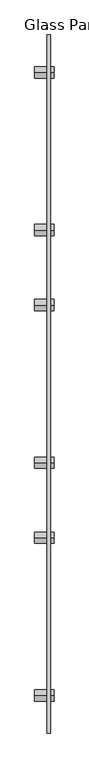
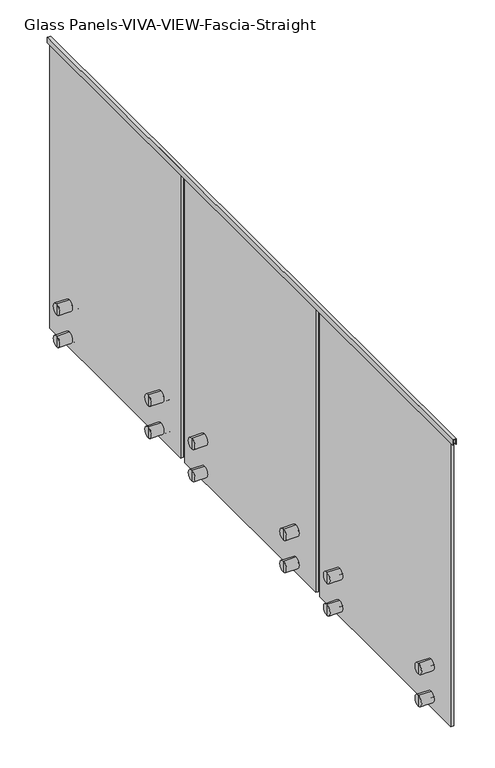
"""IFC4 building model written with IfcOpenShell, lengths in millimetres: railing geometry, Glass Panels-VIVA-VIEW-Fascia-Straight."""

from ifc_helpers import new_model, si_unit, frame, origin, place, context, project, spatial, polyline, circle_curve, outline, extrude, source, transform, mapped, element, save
from ifc_brep_helpers import plane_surface, cylinder_surface, advanced_brep


def glass_panels_viva_view_fascia_straight_26263650(model_context):
    return source(origin(), model_context, "Body", "SolidModel", [
        extrude(outline(polyline([(4140.2, 25111.3483583), (4114.8, 25111.3483583), (4114.8, 25112.9358583), (4138.6125, 25112.9358583), (4138.6125, 25125.6358583), (4114.8, 25125.6358583), (4114.8, 25127.2233583), (4140.2, 25127.2233583), (4140.2, 25111.3483583)])), frame((0.0, -2588.6148227, 0.0), z_axis=(0.0, 1.0, 0.0), x_axis=(0.0, 0.0, 1.0)), (0.0, 0.0, 1.0), 3149.6),
        advanced_brep(
        [(25143.0980644, -319.1651094, 2794.0), (25143.0980644, -319.1651094, 2844.8), (25143.0980644, -319.1651094, 2819.4), (25125.6355644, -319.1651094, 2794.0), (25125.6355644, -319.1651094, 2844.8), (25125.6355644, -319.1651094, 2813.685), (25125.6355644, -319.1651094, 2825.115), (25112.9355644, -319.1651094, 2813.685), (25112.9355644, -319.1651094, 2825.115), (25112.9355644, -319.1651094, 2794.0), (25112.9355644, -319.1651094, 2844.8), (25055.7857113, -319.1651094, 2794.0), (25055.7857113, -319.1651094, 2844.8), (25055.7857113, -319.1651094, 2819.4)],
        [
            (0, 1, circle_curve(frame((25143.0980644, -319.1651094, 2819.4), z_axis=(1.0, 0.0, 0.0), x_axis=(0.0, 0.0, 1.0)), 25.4)),
            (1, 2),
            (2, 0),
            (1, 0, circle_curve(frame((25143.0980644, -319.1651094, 2819.4), z_axis=(1.0, 0.0, 0.0), x_axis=(0.0, 0.0, 1.0)), 25.4)),
            (3, 4, circle_curve(frame((25125.6355644, -319.1651094, 2819.4), z_axis=(1.0, 0.0, 0.0), x_axis=(0.0, 0.0, 1.0)), 25.4)),
            (4, 1),
            (0, 3),
            (4, 3, circle_curve(frame((25125.6355644, -319.1651094, 2819.4), z_axis=(1.0, 0.0, 0.0), x_axis=(0.0, 0.0, 1.0)), 25.4)),
            (5, 6, circle_curve(frame((25125.6355644, -319.1651094, 2819.4), z_axis=(1.0, 0.0, 0.0), x_axis=(0.0, 0.0, 1.0)), 5.715)),
            (6, 4),
            (3, 5),
            (6, 5, circle_curve(frame((25125.6355644, -319.1651094, 2819.4), z_axis=(1.0, 0.0, 0.0), x_axis=(0.0, 0.0, 1.0)), 5.715)),
            (7, 8, circle_curve(frame((25112.9355644, -319.1651094, 2819.4), z_axis=(1.0, 0.0, 0.0), x_axis=(0.0, 0.0, 1.0)), 5.715)),
            (8, 6),
            (5, 7),
            (8, 7, circle_curve(frame((25112.9355644, -319.1651094, 2819.4), z_axis=(1.0, 0.0, 0.0), x_axis=(0.0, 0.0, 1.0)), 5.715)),
            (9, 10, circle_curve(frame((25112.9355644, -319.1651094, 2819.4), z_axis=(1.0, 0.0, 0.0), x_axis=(0.0, 0.0, 1.0)), 25.4)),
            (10, 8),
            (7, 9),
            (10, 9, circle_curve(frame((25112.9355644, -319.1651094, 2819.4), z_axis=(1.0, 0.0, 0.0), x_axis=(0.0, 0.0, 1.0)), 25.4)),
            (11, 12, circle_curve(frame((25055.7857113, -319.1651094, 2819.4), z_axis=(1.0, 0.0, 0.0), x_axis=(0.0, 0.0, 1.0)), 25.4)),
            (12, 10),
            (9, 11),
            (12, 11, circle_curve(frame((25055.7857113, -319.1651094, 2819.4), z_axis=(1.0, 0.0, 0.0), x_axis=(0.0, 0.0, 1.0)), 25.4)),
            (13, 12),
            (11, 13),
        ],
        [
            plane_surface(frame((25143.0980644, -319.1651094, 2819.4), z_axis=(1.0, 0.0, 0.0), x_axis=(0.0, 0.0, 1.0))),
            cylinder_surface(frame((25211.3607113, -319.1651094, 2819.4), z_axis=(-1.0, 0.0, 0.0), x_axis=(0.0, 0.0, 1.0)), 25.4),
            plane_surface(frame((25125.6355644, -319.1651094, 2819.4), z_axis=(-1.0, 0.0, 0.0), x_axis=(0.0, 0.0, 1.0))),
            cylinder_surface(frame((25211.3607113, -319.1651094, 2819.4), z_axis=(-1.0, 0.0, 0.0), x_axis=(0.0, 0.0, 1.0)), 5.715),
            plane_surface(frame((25112.9355644, -319.1651094, 2819.4), z_axis=(1.0, 0.0, 0.0), x_axis=(0.0, 0.0, 1.0))),
            plane_surface(frame((25055.7857113, -319.1651094, 2819.4), z_axis=(-1.0, 0.0, 0.0), x_axis=(0.0, 0.0, 1.0))),
        ],
        [
            (0, [[1, 2, 3]]),
            (0, [[4, -3, -2]]),
            (1, [[5, 6, -1, 7]]),
            (1, [[8, -7, -4, -6]]),
            (2, [[9, 10, -5, 11]]),
            (2, [[12, -11, -8, -10]]),
            (3, [[13, 14, -9, 15]]),
            (3, [[16, -15, -12, -14]]),
            (4, [[17, 18, -13, 19]]),
            (4, [[20, -19, -16, -18]]),
            (1, [[21, 22, -17, 23]]),
            (1, [[24, -23, -20, -22]]),
            (5, [[25, -21, 26]]),
            (5, [[-26, -24, -25]]),
        ],
    ),
        advanced_brep(
        [(25125.6355644, -319.1651094, 2966.085), (25125.6355644, -319.1651094, 2977.515), (25125.6355644, -319.1651094, 2997.2), (25125.6355644, -319.1651094, 2946.4), (25112.9355644, -319.1651094, 2966.085), (25112.9355644, -319.1651094, 2977.515), (25112.9355644, -319.1651094, 2946.4), (25112.9355644, -319.1651094, 2997.2), (25055.7857113, -319.1651094, 2946.4), (25055.7857113, -319.1651094, 2997.2), (25055.7857113, -319.1651094, 2971.8), (25143.0980644, -319.1651094, 2946.4), (25143.0980644, -319.1651094, 2997.2), (25143.0980644, -319.1651094, 2971.8)],
        [
            (0, 1, circle_curve(frame((25125.6355644, -319.1651094, 2971.8), z_axis=(1.0, 0.0, 0.0), x_axis=(0.0, 0.0, 1.0)), 5.715)),
            (1, 2),
            (2, 3, circle_curve(frame((25125.6355644, -319.1651094, 2971.8), z_axis=(-1.0, 0.0, 0.0), x_axis=(0.0, 0.0, 1.0)), 25.4)),
            (3, 0),
            (1, 0, circle_curve(frame((25125.6355644, -319.1651094, 2971.8), z_axis=(1.0, 0.0, 0.0), x_axis=(0.0, 0.0, 1.0)), 5.715)),
            (3, 2, circle_curve(frame((25125.6355644, -319.1651094, 2971.8), z_axis=(-1.0, 0.0, 0.0), x_axis=(0.0, 0.0, 1.0)), 25.4)),
            (4, 5, circle_curve(frame((25112.9355644, -319.1651094, 2971.8), z_axis=(1.0, 0.0, 0.0), x_axis=(0.0, 0.0, 1.0)), 5.715)),
            (5, 1),
            (0, 4),
            (5, 4, circle_curve(frame((25112.9355644, -319.1651094, 2971.8), z_axis=(1.0, 0.0, 0.0), x_axis=(0.0, 0.0, 1.0)), 5.715)),
            (6, 7, circle_curve(frame((25112.9355644, -319.1651094, 2971.8), z_axis=(1.0, 0.0, 0.0), x_axis=(0.0, 0.0, 1.0)), 25.4)),
            (7, 5),
            (4, 6),
            (7, 6, circle_curve(frame((25112.9355644, -319.1651094, 2971.8), z_axis=(1.0, 0.0, 0.0), x_axis=(0.0, 0.0, 1.0)), 25.4)),
            (8, 9, circle_curve(frame((25055.7857113, -319.1651094, 2971.8), z_axis=(1.0, 0.0, 0.0), x_axis=(0.0, 0.0, 1.0)), 25.4)),
            (9, 7),
            (6, 8),
            (9, 8, circle_curve(frame((25055.7857113, -319.1651094, 2971.8), z_axis=(1.0, 0.0, 0.0), x_axis=(0.0, 0.0, 1.0)), 25.4)),
            (10, 9),
            (8, 10),
            (11, 12, circle_curve(frame((25143.0980644, -319.1651094, 2971.8), z_axis=(1.0, 0.0, 0.0), x_axis=(0.0, 0.0, 1.0)), 25.4)),
            (12, 13),
            (13, 11),
            (12, 11, circle_curve(frame((25143.0980644, -319.1651094, 2971.8), z_axis=(1.0, 0.0, 0.0), x_axis=(0.0, 0.0, 1.0)), 25.4)),
            (2, 12),
            (11, 3),
        ],
        [
            plane_surface(frame((25125.6355644, -319.1651094, 2971.8), z_axis=(-1.0, 0.0, 0.0), x_axis=(0.0, 0.0, 1.0))),
            cylinder_surface(frame((25211.3607113, -319.1651094, 2971.8), z_axis=(-1.0, 0.0, 0.0), x_axis=(0.0, 0.0, 1.0)), 5.715),
            plane_surface(frame((25112.9355644, -319.1651094, 2971.8), z_axis=(1.0, 0.0, 0.0), x_axis=(0.0, 0.0, 1.0))),
            cylinder_surface(frame((25211.3607113, -319.1651094, 2971.8), z_axis=(-1.0, 0.0, 0.0), x_axis=(0.0, 0.0, 1.0)), 25.4),
            plane_surface(frame((25055.7857113, -319.1651094, 2971.8), z_axis=(-1.0, 0.0, 0.0), x_axis=(0.0, 0.0, 1.0))),
            plane_surface(frame((25143.0980644, -319.1651094, 2971.8), z_axis=(1.0, 0.0, 0.0), x_axis=(0.0, 0.0, 1.0))),
        ],
        [
            (0, [[1, 2, 3, 4]]),
            (0, [[5, -4, 6, -2]]),
            (1, [[7, 8, -1, 9]]),
            (1, [[10, -9, -5, -8]]),
            (2, [[11, 12, -7, 13]]),
            (2, [[14, -13, -10, -12]]),
            (3, [[15, 16, -11, 17]]),
            (3, [[18, -17, -14, -16]]),
            (4, [[19, -15, 20]]),
            (4, [[-20, -18, -19]]),
            (5, [[21, 22, 23]]),
            (5, [[24, -23, -22]]),
            (3, [[-3, 25, -21, 26]]),
            (3, [[-6, -26, -24, -25]]),
        ],
    ),
        advanced_brep(
        [(25143.0980644, 392.0348906, 2794.0), (25143.0980644, 392.0348906, 2844.8), (25143.0980644, 392.0348906, 2819.4), (25125.6355644, 392.0348906, 2794.0), (25125.6355644, 392.0348906, 2844.8), (25125.6355644, 392.0348906, 2813.685), (25125.6355644, 392.0348906, 2825.115), (25112.9355644, 392.0348906, 2813.685), (25112.9355644, 392.0348906, 2825.115), (25112.9355644, 392.0348906, 2794.0), (25112.9355644, 392.0348906, 2844.8), (25055.7857113, 392.0348906, 2794.0), (25055.7857113, 392.0348906, 2844.8), (25055.7857113, 392.0348906, 2819.4)],
        [
            (0, 1, circle_curve(frame((25143.0980644, 392.0348906, 2819.4), z_axis=(1.0, 0.0, 0.0), x_axis=(0.0, 0.0, 1.0)), 25.4)),
            (1, 2),
            (2, 0),
            (1, 0, circle_curve(frame((25143.0980644, 392.0348906, 2819.4), z_axis=(1.0, 0.0, 0.0), x_axis=(0.0, 0.0, 1.0)), 25.4)),
            (3, 4, circle_curve(frame((25125.6355644, 392.0348906, 2819.4), z_axis=(1.0, 0.0, 0.0), x_axis=(0.0, 0.0, 1.0)), 25.4)),
            (4, 1),
            (0, 3),
            (4, 3, circle_curve(frame((25125.6355644, 392.0348906, 2819.4), z_axis=(1.0, 0.0, 0.0), x_axis=(0.0, 0.0, 1.0)), 25.4)),
            (5, 6, circle_curve(frame((25125.6355644, 392.0348906, 2819.4), z_axis=(1.0, 0.0, 0.0), x_axis=(0.0, 0.0, 1.0)), 5.715)),
            (6, 4),
            (3, 5),
            (6, 5, circle_curve(frame((25125.6355644, 392.0348906, 2819.4), z_axis=(1.0, 0.0, 0.0), x_axis=(0.0, 0.0, 1.0)), 5.715)),
            (7, 8, circle_curve(frame((25112.9355644, 392.0348906, 2819.4), z_axis=(1.0, 0.0, 0.0), x_axis=(0.0, 0.0, 1.0)), 5.715)),
            (8, 6),
            (5, 7),
            (8, 7, circle_curve(frame((25112.9355644, 392.0348906, 2819.4), z_axis=(1.0, 0.0, 0.0), x_axis=(0.0, 0.0, 1.0)), 5.715)),
            (9, 10, circle_curve(frame((25112.9355644, 392.0348906, 2819.4), z_axis=(1.0, 0.0, 0.0), x_axis=(0.0, 0.0, 1.0)), 25.4)),
            (10, 8),
            (7, 9),
            (10, 9, circle_curve(frame((25112.9355644, 392.0348906, 2819.4), z_axis=(1.0, 0.0, 0.0), x_axis=(0.0, 0.0, 1.0)), 25.4)),
            (11, 12, circle_curve(frame((25055.7857113, 392.0348906, 2819.4), z_axis=(1.0, 0.0, 0.0), x_axis=(0.0, 0.0, 1.0)), 25.4)),
            (12, 10),
            (9, 11),
            (12, 11, circle_curve(frame((25055.7857113, 392.0348906, 2819.4), z_axis=(1.0, 0.0, 0.0), x_axis=(0.0, 0.0, 1.0)), 25.4)),
            (13, 12),
            (11, 13),
        ],
        [
            plane_surface(frame((25143.0980644, 392.0348906, 2819.4), z_axis=(1.0, 0.0, 0.0), x_axis=(0.0, 0.0, 1.0))),
            cylinder_surface(frame((25211.3607113, 392.0348906, 2819.4), z_axis=(-1.0, 0.0, 0.0), x_axis=(0.0, 0.0, 1.0)), 25.4),
            plane_surface(frame((25125.6355644, 392.0348906, 2819.4), z_axis=(-1.0, 0.0, 0.0), x_axis=(0.0, 0.0, 1.0))),
            cylinder_surface(frame((25211.3607113, 392.0348906, 2819.4), z_axis=(-1.0, 0.0, 0.0), x_axis=(0.0, 0.0, 1.0)), 5.715),
            plane_surface(frame((25112.9355644, 392.0348906, 2819.4), z_axis=(1.0, 0.0, 0.0), x_axis=(0.0, 0.0, 1.0))),
            plane_surface(frame((25055.7857113, 392.0348906, 2819.4), z_axis=(-1.0, 0.0, 0.0), x_axis=(0.0, 0.0, 1.0))),
        ],
        [
            (0, [[1, 2, 3]]),
            (0, [[4, -3, -2]]),
            (1, [[5, 6, -1, 7]]),
            (1, [[8, -7, -4, -6]]),
            (2, [[9, 10, -5, 11]]),
            (2, [[12, -11, -8, -10]]),
            (3, [[13, 14, -9, 15]]),
            (3, [[16, -15, -12, -14]]),
            (4, [[17, 18, -13, 19]]),
            (4, [[20, -19, -16, -18]]),
            (1, [[21, 22, -17, 23]]),
            (1, [[24, -23, -20, -22]]),
            (5, [[25, -21, 26]]),
            (5, [[-26, -24, -25]]),
        ],
    ),
        advanced_brep(
        [(25125.6355644, 392.0348906, 2966.085), (25125.6355644, 392.0348906, 2977.515), (25125.6355644, 392.0348906, 2997.2), (25125.6355644, 392.0348906, 2946.4), (25112.9355644, 392.0348906, 2966.085), (25112.9355644, 392.0348906, 2977.515), (25112.9355644, 392.0348906, 2946.4), (25112.9355644, 392.0348906, 2997.2), (25055.7857113, 392.0348906, 2946.4), (25055.7857113, 392.0348906, 2997.2), (25055.7857113, 392.0348906, 2971.8), (25143.0980644, 392.0348906, 2946.4), (25143.0980644, 392.0348906, 2997.2), (25143.0980644, 392.0348906, 2971.8)],
        [
            (0, 1, circle_curve(frame((25125.6355644, 392.0348906, 2971.8), z_axis=(1.0, 0.0, 0.0), x_axis=(0.0, 0.0, 1.0)), 5.715)),
            (1, 2),
            (2, 3, circle_curve(frame((25125.6355644, 392.0348906, 2971.8), z_axis=(-1.0, 0.0, 0.0), x_axis=(0.0, 0.0, 1.0)), 25.4)),
            (3, 0),
            (1, 0, circle_curve(frame((25125.6355644, 392.0348906, 2971.8), z_axis=(1.0, 0.0, 0.0), x_axis=(0.0, 0.0, 1.0)), 5.715)),
            (3, 2, circle_curve(frame((25125.6355644, 392.0348906, 2971.8), z_axis=(-1.0, 0.0, 0.0), x_axis=(0.0, 0.0, 1.0)), 25.4)),
            (4, 5, circle_curve(frame((25112.9355644, 392.0348906, 2971.8), z_axis=(1.0, 0.0, 0.0), x_axis=(0.0, 0.0, 1.0)), 5.715)),
            (5, 1),
            (0, 4),
            (5, 4, circle_curve(frame((25112.9355644, 392.0348906, 2971.8), z_axis=(1.0, 0.0, 0.0), x_axis=(0.0, 0.0, 1.0)), 5.715)),
            (6, 7, circle_curve(frame((25112.9355644, 392.0348906, 2971.8), z_axis=(1.0, 0.0, 0.0), x_axis=(0.0, 0.0, 1.0)), 25.4)),
            (7, 5),
            (4, 6),
            (7, 6, circle_curve(frame((25112.9355644, 392.0348906, 2971.8), z_axis=(1.0, 0.0, 0.0), x_axis=(0.0, 0.0, 1.0)), 25.4)),
            (8, 9, circle_curve(frame((25055.7857113, 392.0348906, 2971.8), z_axis=(1.0, 0.0, 0.0), x_axis=(0.0, 0.0, 1.0)), 25.4)),
            (9, 7),
            (6, 8),
            (9, 8, circle_curve(frame((25055.7857113, 392.0348906, 2971.8), z_axis=(1.0, 0.0, 0.0), x_axis=(0.0, 0.0, 1.0)), 25.4)),
            (10, 9),
            (8, 10),
            (11, 12, circle_curve(frame((25143.0980644, 392.0348906, 2971.8), z_axis=(1.0, 0.0, 0.0), x_axis=(0.0, 0.0, 1.0)), 25.4)),
            (12, 13),
            (13, 11),
            (12, 11, circle_curve(frame((25143.0980644, 392.0348906, 2971.8), z_axis=(1.0, 0.0, 0.0), x_axis=(0.0, 0.0, 1.0)), 25.4)),
            (2, 12),
            (11, 3),
        ],
        [
            plane_surface(frame((25125.6355644, 392.0348906, 2971.8), z_axis=(-1.0, 0.0, 0.0), x_axis=(0.0, 0.0, 1.0))),
            cylinder_surface(frame((25211.3607113, 392.0348906, 2971.8), z_axis=(-1.0, 0.0, 0.0), x_axis=(0.0, 0.0, 1.0)), 5.715),
            plane_surface(frame((25112.9355644, 392.0348906, 2971.8), z_axis=(1.0, 0.0, 0.0), x_axis=(0.0, 0.0, 1.0))),
            cylinder_surface(frame((25211.3607113, 392.0348906, 2971.8), z_axis=(-1.0, 0.0, 0.0), x_axis=(0.0, 0.0, 1.0)), 25.4),
            plane_surface(frame((25055.7857113, 392.0348906, 2971.8), z_axis=(-1.0, 0.0, 0.0), x_axis=(0.0, 0.0, 1.0))),
            plane_surface(frame((25143.0980644, 392.0348906, 2971.8), z_axis=(1.0, 0.0, 0.0), x_axis=(0.0, 0.0, 1.0))),
        ],
        [
            (0, [[1, 2, 3, 4]]),
            (0, [[5, -4, 6, -2]]),
            (1, [[7, 8, -1, 9]]),
            (1, [[10, -9, -5, -8]]),
            (2, [[11, 12, -7, 13]]),
            (2, [[14, -13, -10, -12]]),
            (3, [[15, 16, -11, 17]]),
            (3, [[18, -17, -14, -16]]),
            (4, [[19, -15, 20]]),
            (4, [[-20, -18, -19]]),
            (5, [[21, 22, 23]]),
            (5, [[24, -23, -22]]),
            (3, [[-3, 25, -21, 26]]),
            (3, [[-6, -26, -24, -25]]),
        ],
    ),
        extrude(outline(polyline([(25112.9358583, -471.5651094), (25112.9358583, 544.4348906), (25125.6358583, 544.4348906), (25125.6358583, -471.5651094), (25112.9358583, -471.5651094)])), frame((0.0, 0.0, 2768.6), z_axis=(0.0, 0.0, 1.0), x_axis=(1.0, 0.0, 0.0)), (0.0, 0.0, 1.0), 1370.0125),
        advanced_brep(
        [(25143.0980644, -1369.0317761, 2794.0), (25143.0980644, -1369.0317761, 2844.8), (25143.0980644, -1369.0317761, 2819.4), (25125.6355644, -1369.0317761, 2794.0), (25125.6355644, -1369.0317761, 2844.8), (25125.6355644, -1369.0317761, 2813.685), (25125.6355644, -1369.0317761, 2825.115), (25112.9355644, -1369.0317761, 2813.685), (25112.9355644, -1369.0317761, 2825.115), (25112.9355644, -1369.0317761, 2794.0), (25112.9355644, -1369.0317761, 2844.8), (25055.7857113, -1369.0317761, 2794.0), (25055.7857113, -1369.0317761, 2844.8), (25055.7857113, -1369.0317761, 2819.4)],
        [
            (0, 1, circle_curve(frame((25143.0980644, -1369.0317761, 2819.4), z_axis=(1.0, 0.0, 0.0), x_axis=(0.0, 0.0, 1.0)), 25.4)),
            (1, 2),
            (2, 0),
            (1, 0, circle_curve(frame((25143.0980644, -1369.0317761, 2819.4), z_axis=(1.0, 0.0, 0.0), x_axis=(0.0, 0.0, 1.0)), 25.4)),
            (3, 4, circle_curve(frame((25125.6355644, -1369.0317761, 2819.4), z_axis=(1.0, 0.0, 0.0), x_axis=(0.0, 0.0, 1.0)), 25.4)),
            (4, 1),
            (0, 3),
            (4, 3, circle_curve(frame((25125.6355644, -1369.0317761, 2819.4), z_axis=(1.0, 0.0, 0.0), x_axis=(0.0, 0.0, 1.0)), 25.4)),
            (5, 6, circle_curve(frame((25125.6355644, -1369.0317761, 2819.4), z_axis=(1.0, 0.0, 0.0), x_axis=(0.0, 0.0, 1.0)), 5.715)),
            (6, 4),
            (3, 5),
            (6, 5, circle_curve(frame((25125.6355644, -1369.0317761, 2819.4), z_axis=(1.0, 0.0, 0.0), x_axis=(0.0, 0.0, 1.0)), 5.715)),
            (7, 8, circle_curve(frame((25112.9355644, -1369.0317761, 2819.4), z_axis=(1.0, 0.0, 0.0), x_axis=(0.0, 0.0, 1.0)), 5.715)),
            (8, 6),
            (5, 7),
            (8, 7, circle_curve(frame((25112.9355644, -1369.0317761, 2819.4), z_axis=(1.0, 0.0, 0.0), x_axis=(0.0, 0.0, 1.0)), 5.715)),
            (9, 10, circle_curve(frame((25112.9355644, -1369.0317761, 2819.4), z_axis=(1.0, 0.0, 0.0), x_axis=(0.0, 0.0, 1.0)), 25.4)),
            (10, 8),
            (7, 9),
            (10, 9, circle_curve(frame((25112.9355644, -1369.0317761, 2819.4), z_axis=(1.0, 0.0, 0.0), x_axis=(0.0, 0.0, 1.0)), 25.4)),
            (11, 12, circle_curve(frame((25055.7857113, -1369.0317761, 2819.4), z_axis=(1.0, 0.0, 0.0), x_axis=(0.0, 0.0, 1.0)), 25.4)),
            (12, 10),
            (9, 11),
            (12, 11, circle_curve(frame((25055.7857113, -1369.0317761, 2819.4), z_axis=(1.0, 0.0, 0.0), x_axis=(0.0, 0.0, 1.0)), 25.4)),
            (13, 12),
            (11, 13),
        ],
        [
            plane_surface(frame((25143.0980644, -1369.0317761, 2819.4), z_axis=(1.0, 0.0, 0.0), x_axis=(0.0, 0.0, 1.0))),
            cylinder_surface(frame((25211.3607113, -1369.0317761, 2819.4), z_axis=(-1.0, 0.0, 0.0), x_axis=(0.0, 0.0, 1.0)), 25.4),
            plane_surface(frame((25125.6355644, -1369.0317761, 2819.4), z_axis=(-1.0, 0.0, 0.0), x_axis=(0.0, 0.0, 1.0))),
            cylinder_surface(frame((25211.3607113, -1369.0317761, 2819.4), z_axis=(-1.0, 0.0, 0.0), x_axis=(0.0, 0.0, 1.0)), 5.715),
            plane_surface(frame((25112.9355644, -1369.0317761, 2819.4), z_axis=(1.0, 0.0, 0.0), x_axis=(0.0, 0.0, 1.0))),
            plane_surface(frame((25055.7857113, -1369.0317761, 2819.4), z_axis=(-1.0, 0.0, 0.0), x_axis=(0.0, 0.0, 1.0))),
        ],
        [
            (0, [[1, 2, 3]]),
            (0, [[4, -3, -2]]),
            (1, [[5, 6, -1, 7]]),
            (1, [[8, -7, -4, -6]]),
            (2, [[9, 10, -5, 11]]),
            (2, [[12, -11, -8, -10]]),
            (3, [[13, 14, -9, 15]]),
            (3, [[16, -15, -12, -14]]),
            (4, [[17, 18, -13, 19]]),
            (4, [[20, -19, -16, -18]]),
            (1, [[21, 22, -17, 23]]),
            (1, [[24, -23, -20, -22]]),
            (5, [[25, -21, 26]]),
            (5, [[-26, -24, -25]]),
        ],
    ),
        advanced_brep(
        [(25125.6355644, -1369.0317761, 2966.085), (25125.6355644, -1369.0317761, 2977.515), (25125.6355644, -1369.0317761, 2997.2), (25125.6355644, -1369.0317761, 2946.4), (25112.9355644, -1369.0317761, 2966.085), (25112.9355644, -1369.0317761, 2977.515), (25112.9355644, -1369.0317761, 2946.4), (25112.9355644, -1369.0317761, 2997.2), (25055.7857113, -1369.0317761, 2946.4), (25055.7857113, -1369.0317761, 2997.2), (25055.7857113, -1369.0317761, 2971.8), (25143.0980644, -1369.0317761, 2946.4), (25143.0980644, -1369.0317761, 2997.2), (25143.0980644, -1369.0317761, 2971.8)],
        [
            (0, 1, circle_curve(frame((25125.6355644, -1369.0317761, 2971.8), z_axis=(1.0, 0.0, 0.0), x_axis=(0.0, 0.0, 1.0)), 5.715)),
            (1, 2),
            (2, 3, circle_curve(frame((25125.6355644, -1369.0317761, 2971.8), z_axis=(-1.0, 0.0, 0.0), x_axis=(0.0, 0.0, 1.0)), 25.4)),
            (3, 0),
            (1, 0, circle_curve(frame((25125.6355644, -1369.0317761, 2971.8), z_axis=(1.0, 0.0, 0.0), x_axis=(0.0, 0.0, 1.0)), 5.715)),
            (3, 2, circle_curve(frame((25125.6355644, -1369.0317761, 2971.8), z_axis=(-1.0, 0.0, 0.0), x_axis=(0.0, 0.0, 1.0)), 25.4)),
            (4, 5, circle_curve(frame((25112.9355644, -1369.0317761, 2971.8), z_axis=(1.0, 0.0, 0.0), x_axis=(0.0, 0.0, 1.0)), 5.715)),
            (5, 1),
            (0, 4),
            (5, 4, circle_curve(frame((25112.9355644, -1369.0317761, 2971.8), z_axis=(1.0, 0.0, 0.0), x_axis=(0.0, 0.0, 1.0)), 5.715)),
            (6, 7, circle_curve(frame((25112.9355644, -1369.0317761, 2971.8), z_axis=(1.0, 0.0, 0.0), x_axis=(0.0, 0.0, 1.0)), 25.4)),
            (7, 5),
            (4, 6),
            (7, 6, circle_curve(frame((25112.9355644, -1369.0317761, 2971.8), z_axis=(1.0, 0.0, 0.0), x_axis=(0.0, 0.0, 1.0)), 25.4)),
            (8, 9, circle_curve(frame((25055.7857113, -1369.0317761, 2971.8), z_axis=(1.0, 0.0, 0.0), x_axis=(0.0, 0.0, 1.0)), 25.4)),
            (9, 7),
            (6, 8),
            (9, 8, circle_curve(frame((25055.7857113, -1369.0317761, 2971.8), z_axis=(1.0, 0.0, 0.0), x_axis=(0.0, 0.0, 1.0)), 25.4)),
            (10, 9),
            (8, 10),
            (11, 12, circle_curve(frame((25143.0980644, -1369.0317761, 2971.8), z_axis=(1.0, 0.0, 0.0), x_axis=(0.0, 0.0, 1.0)), 25.4)),
            (12, 13),
            (13, 11),
            (12, 11, circle_curve(frame((25143.0980644, -1369.0317761, 2971.8), z_axis=(1.0, 0.0, 0.0), x_axis=(0.0, 0.0, 1.0)), 25.4)),
            (2, 12),
            (11, 3),
        ],
        [
            plane_surface(frame((25125.6355644, -1369.0317761, 2971.8), z_axis=(-1.0, 0.0, 0.0), x_axis=(0.0, 0.0, 1.0))),
            cylinder_surface(frame((25211.3607113, -1369.0317761, 2971.8), z_axis=(-1.0, 0.0, 0.0), x_axis=(0.0, 0.0, 1.0)), 5.715),
            plane_surface(frame((25112.9355644, -1369.0317761, 2971.8), z_axis=(1.0, 0.0, 0.0), x_axis=(0.0, 0.0, 1.0))),
            cylinder_surface(frame((25211.3607113, -1369.0317761, 2971.8), z_axis=(-1.0, 0.0, 0.0), x_axis=(0.0, 0.0, 1.0)), 25.4),
            plane_surface(frame((25055.7857113, -1369.0317761, 2971.8), z_axis=(-1.0, 0.0, 0.0), x_axis=(0.0, 0.0, 1.0))),
            plane_surface(frame((25143.0980644, -1369.0317761, 2971.8), z_axis=(1.0, 0.0, 0.0), x_axis=(0.0, 0.0, 1.0))),
        ],
        [
            (0, [[1, 2, 3, 4]]),
            (0, [[5, -4, 6, -2]]),
            (1, [[7, 8, -1, 9]]),
            (1, [[10, -9, -5, -8]]),
            (2, [[11, 12, -7, 13]]),
            (2, [[14, -13, -10, -12]]),
            (3, [[15, 16, -11, 17]]),
            (3, [[18, -17, -14, -16]]),
            (4, [[19, -15, 20]]),
            (4, [[-20, -18, -19]]),
            (5, [[21, 22, 23]]),
            (5, [[24, -23, -22]]),
            (3, [[-3, 25, -21, 26]]),
            (3, [[-6, -26, -24, -25]]),
        ],
    ),
        advanced_brep(
        [(25143.0980644, -657.8317761, 2794.0), (25143.0980644, -657.8317761, 2844.8), (25143.0980644, -657.8317761, 2819.4), (25125.6355644, -657.8317761, 2794.0), (25125.6355644, -657.8317761, 2844.8), (25125.6355644, -657.8317761, 2813.685), (25125.6355644, -657.8317761, 2825.115), (25112.9355644, -657.8317761, 2813.685), (25112.9355644, -657.8317761, 2825.115), (25112.9355644, -657.8317761, 2794.0), (25112.9355644, -657.8317761, 2844.8), (25055.7857113, -657.8317761, 2794.0), (25055.7857113, -657.8317761, 2844.8), (25055.7857113, -657.8317761, 2819.4)],
        [
            (0, 1, circle_curve(frame((25143.0980644, -657.8317761, 2819.4), z_axis=(1.0, 0.0, 0.0), x_axis=(0.0, 0.0, 1.0)), 25.4)),
            (1, 2),
            (2, 0),
            (1, 0, circle_curve(frame((25143.0980644, -657.8317761, 2819.4), z_axis=(1.0, 0.0, 0.0), x_axis=(0.0, 0.0, 1.0)), 25.4)),
            (3, 4, circle_curve(frame((25125.6355644, -657.8317761, 2819.4), z_axis=(1.0, 0.0, 0.0), x_axis=(0.0, 0.0, 1.0)), 25.4)),
            (4, 1),
            (0, 3),
            (4, 3, circle_curve(frame((25125.6355644, -657.8317761, 2819.4), z_axis=(1.0, 0.0, 0.0), x_axis=(0.0, 0.0, 1.0)), 25.4)),
            (5, 6, circle_curve(frame((25125.6355644, -657.8317761, 2819.4), z_axis=(1.0, 0.0, 0.0), x_axis=(0.0, 0.0, 1.0)), 5.715)),
            (6, 4),
            (3, 5),
            (6, 5, circle_curve(frame((25125.6355644, -657.8317761, 2819.4), z_axis=(1.0, 0.0, 0.0), x_axis=(0.0, 0.0, 1.0)), 5.715)),
            (7, 8, circle_curve(frame((25112.9355644, -657.8317761, 2819.4), z_axis=(1.0, 0.0, 0.0), x_axis=(0.0, 0.0, 1.0)), 5.715)),
            (8, 6),
            (5, 7),
            (8, 7, circle_curve(frame((25112.9355644, -657.8317761, 2819.4), z_axis=(1.0, 0.0, 0.0), x_axis=(0.0, 0.0, 1.0)), 5.715)),
            (9, 10, circle_curve(frame((25112.9355644, -657.8317761, 2819.4), z_axis=(1.0, 0.0, 0.0), x_axis=(0.0, 0.0, 1.0)), 25.4)),
            (10, 8),
            (7, 9),
            (10, 9, circle_curve(frame((25112.9355644, -657.8317761, 2819.4), z_axis=(1.0, 0.0, 0.0), x_axis=(0.0, 0.0, 1.0)), 25.4)),
            (11, 12, circle_curve(frame((25055.7857113, -657.8317761, 2819.4), z_axis=(1.0, 0.0, 0.0), x_axis=(0.0, 0.0, 1.0)), 25.4)),
            (12, 10),
            (9, 11),
            (12, 11, circle_curve(frame((25055.7857113, -657.8317761, 2819.4), z_axis=(1.0, 0.0, 0.0), x_axis=(0.0, 0.0, 1.0)), 25.4)),
            (13, 12),
            (11, 13),
        ],
        [
            plane_surface(frame((25143.0980644, -657.8317761, 2819.4), z_axis=(1.0, 0.0, 0.0), x_axis=(0.0, 0.0, 1.0))),
            cylinder_surface(frame((25211.3607113, -657.8317761, 2819.4), z_axis=(-1.0, 0.0, 0.0), x_axis=(0.0, 0.0, 1.0)), 25.4),
            plane_surface(frame((25125.6355644, -657.8317761, 2819.4), z_axis=(-1.0, 0.0, 0.0), x_axis=(0.0, 0.0, 1.0))),
            cylinder_surface(frame((25211.3607113, -657.8317761, 2819.4), z_axis=(-1.0, 0.0, 0.0), x_axis=(0.0, 0.0, 1.0)), 5.715),
            plane_surface(frame((25112.9355644, -657.8317761, 2819.4), z_axis=(1.0, 0.0, 0.0), x_axis=(0.0, 0.0, 1.0))),
            plane_surface(frame((25055.7857113, -657.8317761, 2819.4), z_axis=(-1.0, 0.0, 0.0), x_axis=(0.0, 0.0, 1.0))),
        ],
        [
            (0, [[1, 2, 3]]),
            (0, [[4, -3, -2]]),
            (1, [[5, 6, -1, 7]]),
            (1, [[8, -7, -4, -6]]),
            (2, [[9, 10, -5, 11]]),
            (2, [[12, -11, -8, -10]]),
            (3, [[13, 14, -9, 15]]),
            (3, [[16, -15, -12, -14]]),
            (4, [[17, 18, -13, 19]]),
            (4, [[20, -19, -16, -18]]),
            (1, [[21, 22, -17, 23]]),
            (1, [[24, -23, -20, -22]]),
            (5, [[25, -21, 26]]),
            (5, [[-26, -24, -25]]),
        ],
    ),
        advanced_brep(
        [(25125.6355644, -657.8317761, 2966.085), (25125.6355644, -657.8317761, 2977.515), (25125.6355644, -657.8317761, 2997.2), (25125.6355644, -657.8317761, 2946.4), (25112.9355644, -657.8317761, 2966.085), (25112.9355644, -657.8317761, 2977.515), (25112.9355644, -657.8317761, 2946.4), (25112.9355644, -657.8317761, 2997.2), (25055.7857113, -657.8317761, 2946.4), (25055.7857113, -657.8317761, 2997.2), (25055.7857113, -657.8317761, 2971.8), (25143.0980644, -657.8317761, 2946.4), (25143.0980644, -657.8317761, 2997.2), (25143.0980644, -657.8317761, 2971.8)],
        [
            (0, 1, circle_curve(frame((25125.6355644, -657.8317761, 2971.8), z_axis=(1.0, 0.0, 0.0), x_axis=(0.0, 0.0, 1.0)), 5.715)),
            (1, 2),
            (2, 3, circle_curve(frame((25125.6355644, -657.8317761, 2971.8), z_axis=(-1.0, 0.0, 0.0), x_axis=(0.0, 0.0, 1.0)), 25.4)),
            (3, 0),
            (1, 0, circle_curve(frame((25125.6355644, -657.8317761, 2971.8), z_axis=(1.0, 0.0, 0.0), x_axis=(0.0, 0.0, 1.0)), 5.715)),
            (3, 2, circle_curve(frame((25125.6355644, -657.8317761, 2971.8), z_axis=(-1.0, 0.0, 0.0), x_axis=(0.0, 0.0, 1.0)), 25.4)),
            (4, 5, circle_curve(frame((25112.9355644, -657.8317761, 2971.8), z_axis=(1.0, 0.0, 0.0), x_axis=(0.0, 0.0, 1.0)), 5.715)),
            (5, 1),
            (0, 4),
            (5, 4, circle_curve(frame((25112.9355644, -657.8317761, 2971.8), z_axis=(1.0, 0.0, 0.0), x_axis=(0.0, 0.0, 1.0)), 5.715)),
            (6, 7, circle_curve(frame((25112.9355644, -657.8317761, 2971.8), z_axis=(1.0, 0.0, 0.0), x_axis=(0.0, 0.0, 1.0)), 25.4)),
            (7, 5),
            (4, 6),
            (7, 6, circle_curve(frame((25112.9355644, -657.8317761, 2971.8), z_axis=(1.0, 0.0, 0.0), x_axis=(0.0, 0.0, 1.0)), 25.4)),
            (8, 9, circle_curve(frame((25055.7857113, -657.8317761, 2971.8), z_axis=(1.0, 0.0, 0.0), x_axis=(0.0, 0.0, 1.0)), 25.4)),
            (9, 7),
            (6, 8),
            (9, 8, circle_curve(frame((25055.7857113, -657.8317761, 2971.8), z_axis=(1.0, 0.0, 0.0), x_axis=(0.0, 0.0, 1.0)), 25.4)),
            (10, 9),
            (8, 10),
            (11, 12, circle_curve(frame((25143.0980644, -657.8317761, 2971.8), z_axis=(1.0, 0.0, 0.0), x_axis=(0.0, 0.0, 1.0)), 25.4)),
            (12, 13),
            (13, 11),
            (12, 11, circle_curve(frame((25143.0980644, -657.8317761, 2971.8), z_axis=(1.0, 0.0, 0.0), x_axis=(0.0, 0.0, 1.0)), 25.4)),
            (2, 12),
            (11, 3),
        ],
        [
            plane_surface(frame((25125.6355644, -657.8317761, 2971.8), z_axis=(-1.0, 0.0, 0.0), x_axis=(0.0, 0.0, 1.0))),
            cylinder_surface(frame((25211.3607113, -657.8317761, 2971.8), z_axis=(-1.0, 0.0, 0.0), x_axis=(0.0, 0.0, 1.0)), 5.715),
            plane_surface(frame((25112.9355644, -657.8317761, 2971.8), z_axis=(1.0, 0.0, 0.0), x_axis=(0.0, 0.0, 1.0))),
            cylinder_surface(frame((25211.3607113, -657.8317761, 2971.8), z_axis=(-1.0, 0.0, 0.0), x_axis=(0.0, 0.0, 1.0)), 25.4),
            plane_surface(frame((25055.7857113, -657.8317761, 2971.8), z_axis=(-1.0, 0.0, 0.0), x_axis=(0.0, 0.0, 1.0))),
            plane_surface(frame((25143.0980644, -657.8317761, 2971.8), z_axis=(1.0, 0.0, 0.0), x_axis=(0.0, 0.0, 1.0))),
        ],
        [
            (0, [[1, 2, 3, 4]]),
            (0, [[5, -4, 6, -2]]),
            (1, [[7, 8, -1, 9]]),
            (1, [[10, -9, -5, -8]]),
            (2, [[11, 12, -7, 13]]),
            (2, [[14, -13, -10, -12]]),
            (3, [[15, 16, -11, 17]]),
            (3, [[18, -17, -14, -16]]),
            (4, [[19, -15, 20]]),
            (4, [[-20, -18, -19]]),
            (5, [[21, 22, 23]]),
            (5, [[24, -23, -22]]),
            (3, [[-3, 25, -21, 26]]),
            (3, [[-6, -26, -24, -25]]),
        ],
    ),
        extrude(outline(polyline([(25112.9358583, -1521.4317761), (25112.9358583, -505.4317761), (25125.6358583, -505.4317761), (25125.6358583, -1521.4317761), (25112.9358583, -1521.4317761)])), frame((0.0, 0.0, 2768.6), z_axis=(0.0, 0.0, 1.0), x_axis=(1.0, 0.0, 0.0)), (0.0, 0.0, 1.0), 1370.0125),
        advanced_brep(
        [(25143.0980644, -2418.8984427, 2794.0), (25143.0980644, -2418.8984427, 2844.8), (25143.0980644, -2418.8984427, 2819.4), (25125.6355644, -2418.8984427, 2794.0), (25125.6355644, -2418.8984427, 2844.8), (25125.6355644, -2418.8984427, 2813.685), (25125.6355644, -2418.8984427, 2825.115), (25112.9355644, -2418.8984427, 2813.685), (25112.9355644, -2418.8984427, 2825.115), (25112.9355644, -2418.8984427, 2794.0), (25112.9355644, -2418.8984427, 2844.8), (25055.7857113, -2418.8984427, 2794.0), (25055.7857113, -2418.8984427, 2844.8), (25055.7857113, -2418.8984427, 2819.4)],
        [
            (0, 1, circle_curve(frame((25143.0980644, -2418.8984427, 2819.4), z_axis=(1.0, 0.0, 0.0), x_axis=(0.0, 0.0, 1.0)), 25.4)),
            (1, 2),
            (2, 0),
            (1, 0, circle_curve(frame((25143.0980644, -2418.8984427, 2819.4), z_axis=(1.0, 0.0, 0.0), x_axis=(0.0, 0.0, 1.0)), 25.4)),
            (3, 4, circle_curve(frame((25125.6355644, -2418.8984427, 2819.4), z_axis=(1.0, 0.0, 0.0), x_axis=(0.0, 0.0, 1.0)), 25.4)),
            (4, 1),
            (0, 3),
            (4, 3, circle_curve(frame((25125.6355644, -2418.8984427, 2819.4), z_axis=(1.0, 0.0, 0.0), x_axis=(0.0, 0.0, 1.0)), 25.4)),
            (5, 6, circle_curve(frame((25125.6355644, -2418.8984427, 2819.4), z_axis=(1.0, 0.0, 0.0), x_axis=(0.0, 0.0, 1.0)), 5.715)),
            (6, 4),
            (3, 5),
            (6, 5, circle_curve(frame((25125.6355644, -2418.8984427, 2819.4), z_axis=(1.0, 0.0, 0.0), x_axis=(0.0, 0.0, 1.0)), 5.715)),
            (7, 8, circle_curve(frame((25112.9355644, -2418.8984427, 2819.4), z_axis=(1.0, 0.0, 0.0), x_axis=(0.0, 0.0, 1.0)), 5.715)),
            (8, 6),
            (5, 7),
            (8, 7, circle_curve(frame((25112.9355644, -2418.8984427, 2819.4), z_axis=(1.0, 0.0, 0.0), x_axis=(0.0, 0.0, 1.0)), 5.715)),
            (9, 10, circle_curve(frame((25112.9355644, -2418.8984427, 2819.4), z_axis=(1.0, 0.0, 0.0), x_axis=(0.0, 0.0, 1.0)), 25.4)),
            (10, 8),
            (7, 9),
            (10, 9, circle_curve(frame((25112.9355644, -2418.8984427, 2819.4), z_axis=(1.0, 0.0, 0.0), x_axis=(0.0, 0.0, 1.0)), 25.4)),
            (11, 12, circle_curve(frame((25055.7857113, -2418.8984427, 2819.4), z_axis=(1.0, 0.0, 0.0), x_axis=(0.0, 0.0, 1.0)), 25.4)),
            (12, 10),
            (9, 11),
            (12, 11, circle_curve(frame((25055.7857113, -2418.8984427, 2819.4), z_axis=(1.0, 0.0, 0.0), x_axis=(0.0, 0.0, 1.0)), 25.4)),
            (13, 12),
            (11, 13),
        ],
        [
            plane_surface(frame((25143.0980644, -2418.8984427, 2819.4), z_axis=(1.0, 0.0, 0.0), x_axis=(0.0, 0.0, 1.0))),
            cylinder_surface(frame((25211.3607113, -2418.8984427, 2819.4), z_axis=(-1.0, 0.0, 0.0), x_axis=(0.0, 0.0, 1.0)), 25.4),
            plane_surface(frame((25125.6355644, -2418.8984427, 2819.4), z_axis=(-1.0, 0.0, 0.0), x_axis=(0.0, 0.0, 1.0))),
            cylinder_surface(frame((25211.3607113, -2418.8984427, 2819.4), z_axis=(-1.0, 0.0, 0.0), x_axis=(0.0, 0.0, 1.0)), 5.715),
            plane_surface(frame((25112.9355644, -2418.8984427, 2819.4), z_axis=(1.0, 0.0, 0.0), x_axis=(0.0, 0.0, 1.0))),
            plane_surface(frame((25055.7857113, -2418.8984427, 2819.4), z_axis=(-1.0, 0.0, 0.0), x_axis=(0.0, 0.0, 1.0))),
        ],
        [
            (0, [[1, 2, 3]]),
            (0, [[4, -3, -2]]),
            (1, [[5, 6, -1, 7]]),
            (1, [[8, -7, -4, -6]]),
            (2, [[9, 10, -5, 11]]),
            (2, [[12, -11, -8, -10]]),
            (3, [[13, 14, -9, 15]]),
            (3, [[16, -15, -12, -14]]),
            (4, [[17, 18, -13, 19]]),
            (4, [[20, -19, -16, -18]]),
            (1, [[21, 22, -17, 23]]),
            (1, [[24, -23, -20, -22]]),
            (5, [[25, -21, 26]]),
            (5, [[-26, -24, -25]]),
        ],
    ),
        advanced_brep(
        [(25125.6355644, -2418.8984427, 2966.085), (25125.6355644, -2418.8984427, 2977.515), (25125.6355644, -2418.8984427, 2997.2), (25125.6355644, -2418.8984427, 2946.4), (25112.9355644, -2418.8984427, 2966.085), (25112.9355644, -2418.8984427, 2977.515), (25112.9355644, -2418.8984427, 2946.4), (25112.9355644, -2418.8984427, 2997.2), (25055.7857113, -2418.8984427, 2946.4), (25055.7857113, -2418.8984427, 2997.2), (25055.7857113, -2418.8984427, 2971.8), (25143.0980644, -2418.8984427, 2946.4), (25143.0980644, -2418.8984427, 2997.2), (25143.0980644, -2418.8984427, 2971.8)],
        [
            (0, 1, circle_curve(frame((25125.6355644, -2418.8984427, 2971.8), z_axis=(1.0, 0.0, 0.0), x_axis=(0.0, 0.0, 1.0)), 5.715)),
            (1, 2),
            (2, 3, circle_curve(frame((25125.6355644, -2418.8984427, 2971.8), z_axis=(-1.0, 0.0, 0.0), x_axis=(0.0, 0.0, 1.0)), 25.4)),
            (3, 0),
            (1, 0, circle_curve(frame((25125.6355644, -2418.8984427, 2971.8), z_axis=(1.0, 0.0, 0.0), x_axis=(0.0, 0.0, 1.0)), 5.715)),
            (3, 2, circle_curve(frame((25125.6355644, -2418.8984427, 2971.8), z_axis=(-1.0, 0.0, 0.0), x_axis=(0.0, 0.0, 1.0)), 25.4)),
            (4, 5, circle_curve(frame((25112.9355644, -2418.8984427, 2971.8), z_axis=(1.0, 0.0, 0.0), x_axis=(0.0, 0.0, 1.0)), 5.715)),
            (5, 1),
            (0, 4),
            (5, 4, circle_curve(frame((25112.9355644, -2418.8984427, 2971.8), z_axis=(1.0, 0.0, 0.0), x_axis=(0.0, 0.0, 1.0)), 5.715)),
            (6, 7, circle_curve(frame((25112.9355644, -2418.8984427, 2971.8), z_axis=(1.0, 0.0, 0.0), x_axis=(0.0, 0.0, 1.0)), 25.4)),
            (7, 5),
            (4, 6),
            (7, 6, circle_curve(frame((25112.9355644, -2418.8984427, 2971.8), z_axis=(1.0, 0.0, 0.0), x_axis=(0.0, 0.0, 1.0)), 25.4)),
            (8, 9, circle_curve(frame((25055.7857113, -2418.8984427, 2971.8), z_axis=(1.0, 0.0, 0.0), x_axis=(0.0, 0.0, 1.0)), 25.4)),
            (9, 7),
            (6, 8),
            (9, 8, circle_curve(frame((25055.7857113, -2418.8984427, 2971.8), z_axis=(1.0, 0.0, 0.0), x_axis=(0.0, 0.0, 1.0)), 25.4)),
            (10, 9),
            (8, 10),
            (11, 12, circle_curve(frame((25143.0980644, -2418.8984427, 2971.8), z_axis=(1.0, 0.0, 0.0), x_axis=(0.0, 0.0, 1.0)), 25.4)),
            (12, 13),
            (13, 11),
            (12, 11, circle_curve(frame((25143.0980644, -2418.8984427, 2971.8), z_axis=(1.0, 0.0, 0.0), x_axis=(0.0, 0.0, 1.0)), 25.4)),
            (2, 12),
            (11, 3),
        ],
        [
            plane_surface(frame((25125.6355644, -2418.8984427, 2971.8), z_axis=(-1.0, 0.0, 0.0), x_axis=(0.0, 0.0, 1.0))),
            cylinder_surface(frame((25211.3607113, -2418.8984427, 2971.8), z_axis=(-1.0, 0.0, 0.0), x_axis=(0.0, 0.0, 1.0)), 5.715),
            plane_surface(frame((25112.9355644, -2418.8984427, 2971.8), z_axis=(1.0, 0.0, 0.0), x_axis=(0.0, 0.0, 1.0))),
            cylinder_surface(frame((25211.3607113, -2418.8984427, 2971.8), z_axis=(-1.0, 0.0, 0.0), x_axis=(0.0, 0.0, 1.0)), 25.4),
            plane_surface(frame((25055.7857113, -2418.8984427, 2971.8), z_axis=(-1.0, 0.0, 0.0), x_axis=(0.0, 0.0, 1.0))),
            plane_surface(frame((25143.0980644, -2418.8984427, 2971.8), z_axis=(1.0, 0.0, 0.0), x_axis=(0.0, 0.0, 1.0))),
        ],
        [
            (0, [[1, 2, 3, 4]]),
            (0, [[5, -4, 6, -2]]),
            (1, [[7, 8, -1, 9]]),
            (1, [[10, -9, -5, -8]]),
            (2, [[11, 12, -7, 13]]),
            (2, [[14, -13, -10, -12]]),
            (3, [[15, 16, -11, 17]]),
            (3, [[18, -17, -14, -16]]),
            (4, [[19, -15, 20]]),
            (4, [[-20, -18, -19]]),
            (5, [[21, 22, 23]]),
            (5, [[24, -23, -22]]),
            (3, [[-3, 25, -21, 26]]),
            (3, [[-6, -26, -24, -25]]),
        ],
    ),
        advanced_brep(
        [(25143.0980644, -1707.6984427, 2794.0), (25143.0980644, -1707.6984427, 2844.8), (25143.0980644, -1707.6984427, 2819.4), (25125.6355644, -1707.6984427, 2794.0), (25125.6355644, -1707.6984427, 2844.8), (25125.6355644, -1707.6984427, 2813.685), (25125.6355644, -1707.6984427, 2825.115), (25112.9355644, -1707.6984427, 2813.685), (25112.9355644, -1707.6984427, 2825.115), (25112.9355644, -1707.6984427, 2794.0), (25112.9355644, -1707.6984427, 2844.8), (25055.7857113, -1707.6984427, 2794.0), (25055.7857113, -1707.6984427, 2844.8), (25055.7857113, -1707.6984427, 2819.4)],
        [
            (0, 1, circle_curve(frame((25143.0980644, -1707.6984427, 2819.4), z_axis=(1.0, 0.0, 0.0), x_axis=(0.0, 0.0, 1.0)), 25.4)),
            (1, 2),
            (2, 0),
            (1, 0, circle_curve(frame((25143.0980644, -1707.6984427, 2819.4), z_axis=(1.0, 0.0, 0.0), x_axis=(0.0, 0.0, 1.0)), 25.4)),
            (3, 4, circle_curve(frame((25125.6355644, -1707.6984427, 2819.4), z_axis=(1.0, 0.0, 0.0), x_axis=(0.0, 0.0, 1.0)), 25.4)),
            (4, 1),
            (0, 3),
            (4, 3, circle_curve(frame((25125.6355644, -1707.6984427, 2819.4), z_axis=(1.0, 0.0, 0.0), x_axis=(0.0, 0.0, 1.0)), 25.4)),
            (5, 6, circle_curve(frame((25125.6355644, -1707.6984427, 2819.4), z_axis=(1.0, 0.0, 0.0), x_axis=(0.0, 0.0, 1.0)), 5.715)),
            (6, 4),
            (3, 5),
            (6, 5, circle_curve(frame((25125.6355644, -1707.6984427, 2819.4), z_axis=(1.0, 0.0, 0.0), x_axis=(0.0, 0.0, 1.0)), 5.715)),
            (7, 8, circle_curve(frame((25112.9355644, -1707.6984427, 2819.4), z_axis=(1.0, 0.0, 0.0), x_axis=(0.0, 0.0, 1.0)), 5.715)),
            (8, 6),
            (5, 7),
            (8, 7, circle_curve(frame((25112.9355644, -1707.6984427, 2819.4), z_axis=(1.0, 0.0, 0.0), x_axis=(0.0, 0.0, 1.0)), 5.715)),
            (9, 10, circle_curve(frame((25112.9355644, -1707.6984427, 2819.4), z_axis=(1.0, 0.0, 0.0), x_axis=(0.0, 0.0, 1.0)), 25.4)),
            (10, 8),
            (7, 9),
            (10, 9, circle_curve(frame((25112.9355644, -1707.6984427, 2819.4), z_axis=(1.0, 0.0, 0.0), x_axis=(0.0, 0.0, 1.0)), 25.4)),
            (11, 12, circle_curve(frame((25055.7857113, -1707.6984427, 2819.4), z_axis=(1.0, 0.0, 0.0), x_axis=(0.0, 0.0, 1.0)), 25.4)),
            (12, 10),
            (9, 11),
            (12, 11, circle_curve(frame((25055.7857113, -1707.6984427, 2819.4), z_axis=(1.0, 0.0, 0.0), x_axis=(0.0, 0.0, 1.0)), 25.4)),
            (13, 12),
            (11, 13),
        ],
        [
            plane_surface(frame((25143.0980644, -1707.6984427, 2819.4), z_axis=(1.0, 0.0, 0.0), x_axis=(0.0, 0.0, 1.0))),
            cylinder_surface(frame((25211.3607113, -1707.6984427, 2819.4), z_axis=(-1.0, 0.0, 0.0), x_axis=(0.0, 0.0, 1.0)), 25.4),
            plane_surface(frame((25125.6355644, -1707.6984427, 2819.4), z_axis=(-1.0, 0.0, 0.0), x_axis=(0.0, 0.0, 1.0))),
            cylinder_surface(frame((25211.3607113, -1707.6984427, 2819.4), z_axis=(-1.0, 0.0, 0.0), x_axis=(0.0, 0.0, 1.0)), 5.715),
            plane_surface(frame((25112.9355644, -1707.6984427, 2819.4), z_axis=(1.0, 0.0, 0.0), x_axis=(0.0, 0.0, 1.0))),
            plane_surface(frame((25055.7857113, -1707.6984427, 2819.4), z_axis=(-1.0, 0.0, 0.0), x_axis=(0.0, 0.0, 1.0))),
        ],
        [
            (0, [[1, 2, 3]]),
            (0, [[4, -3, -2]]),
            (1, [[5, 6, -1, 7]]),
            (1, [[8, -7, -4, -6]]),
            (2, [[9, 10, -5, 11]]),
            (2, [[12, -11, -8, -10]]),
            (3, [[13, 14, -9, 15]]),
            (3, [[16, -15, -12, -14]]),
            (4, [[17, 18, -13, 19]]),
            (4, [[20, -19, -16, -18]]),
            (1, [[21, 22, -17, 23]]),
            (1, [[24, -23, -20, -22]]),
            (5, [[25, -21, 26]]),
            (5, [[-26, -24, -25]]),
        ],
    ),
        advanced_brep(
        [(25125.6355644, -1707.6984427, 2966.085), (25125.6355644, -1707.6984427, 2977.515), (25125.6355644, -1707.6984427, 2997.2), (25125.6355644, -1707.6984427, 2946.4), (25112.9355644, -1707.6984427, 2966.085), (25112.9355644, -1707.6984427, 2977.515), (25112.9355644, -1707.6984427, 2946.4), (25112.9355644, -1707.6984427, 2997.2), (25055.7857113, -1707.6984427, 2946.4), (25055.7857113, -1707.6984427, 2997.2), (25055.7857113, -1707.6984427, 2971.8), (25143.0980644, -1707.6984427, 2946.4), (25143.0980644, -1707.6984427, 2997.2), (25143.0980644, -1707.6984427, 2971.8)],
        [
            (0, 1, circle_curve(frame((25125.6355644, -1707.6984427, 2971.8), z_axis=(1.0, 0.0, 0.0), x_axis=(0.0, 0.0, 1.0)), 5.715)),
            (1, 2),
            (2, 3, circle_curve(frame((25125.6355644, -1707.6984427, 2971.8), z_axis=(-1.0, 0.0, 0.0), x_axis=(0.0, 0.0, 1.0)), 25.4)),
            (3, 0),
            (1, 0, circle_curve(frame((25125.6355644, -1707.6984427, 2971.8), z_axis=(1.0, 0.0, 0.0), x_axis=(0.0, 0.0, 1.0)), 5.715)),
            (3, 2, circle_curve(frame((25125.6355644, -1707.6984427, 2971.8), z_axis=(-1.0, 0.0, 0.0), x_axis=(0.0, 0.0, 1.0)), 25.4)),
            (4, 5, circle_curve(frame((25112.9355644, -1707.6984427, 2971.8), z_axis=(1.0, 0.0, 0.0), x_axis=(0.0, 0.0, 1.0)), 5.715)),
            (5, 1),
            (0, 4),
            (5, 4, circle_curve(frame((25112.9355644, -1707.6984427, 2971.8), z_axis=(1.0, 0.0, 0.0), x_axis=(0.0, 0.0, 1.0)), 5.715)),
            (6, 7, circle_curve(frame((25112.9355644, -1707.6984427, 2971.8), z_axis=(1.0, 0.0, 0.0), x_axis=(0.0, 0.0, 1.0)), 25.4)),
            (7, 5),
            (4, 6),
            (7, 6, circle_curve(frame((25112.9355644, -1707.6984427, 2971.8), z_axis=(1.0, 0.0, 0.0), x_axis=(0.0, 0.0, 1.0)), 25.4)),
            (8, 9, circle_curve(frame((25055.7857113, -1707.6984427, 2971.8), z_axis=(1.0, 0.0, 0.0), x_axis=(0.0, 0.0, 1.0)), 25.4)),
            (9, 7),
            (6, 8),
            (9, 8, circle_curve(frame((25055.7857113, -1707.6984427, 2971.8), z_axis=(1.0, 0.0, 0.0), x_axis=(0.0, 0.0, 1.0)), 25.4)),
            (10, 9),
            (8, 10),
            (11, 12, circle_curve(frame((25143.0980644, -1707.6984427, 2971.8), z_axis=(1.0, 0.0, 0.0), x_axis=(0.0, 0.0, 1.0)), 25.4)),
            (12, 13),
            (13, 11),
            (12, 11, circle_curve(frame((25143.0980644, -1707.6984427, 2971.8), z_axis=(1.0, 0.0, 0.0), x_axis=(0.0, 0.0, 1.0)), 25.4)),
            (2, 12),
            (11, 3),
        ],
        [
            plane_surface(frame((25125.6355644, -1707.6984427, 2971.8), z_axis=(-1.0, 0.0, 0.0), x_axis=(0.0, 0.0, 1.0))),
            cylinder_surface(frame((25211.3607113, -1707.6984427, 2971.8), z_axis=(-1.0, 0.0, 0.0), x_axis=(0.0, 0.0, 1.0)), 5.715),
            plane_surface(frame((25112.9355644, -1707.6984427, 2971.8), z_axis=(1.0, 0.0, 0.0), x_axis=(0.0, 0.0, 1.0))),
            cylinder_surface(frame((25211.3607113, -1707.6984427, 2971.8), z_axis=(-1.0, 0.0, 0.0), x_axis=(0.0, 0.0, 1.0)), 25.4),
            plane_surface(frame((25055.7857113, -1707.6984427, 2971.8), z_axis=(-1.0, 0.0, 0.0), x_axis=(0.0, 0.0, 1.0))),
            plane_surface(frame((25143.0980644, -1707.6984427, 2971.8), z_axis=(1.0, 0.0, 0.0), x_axis=(0.0, 0.0, 1.0))),
        ],
        [
            (0, [[1, 2, 3, 4]]),
            (0, [[5, -4, 6, -2]]),
            (1, [[7, 8, -1, 9]]),
            (1, [[10, -9, -5, -8]]),
            (2, [[11, 12, -7, 13]]),
            (2, [[14, -13, -10, -12]]),
            (3, [[15, 16, -11, 17]]),
            (3, [[18, -17, -14, -16]]),
            (4, [[19, -15, 20]]),
            (4, [[-20, -18, -19]]),
            (5, [[21, 22, 23]]),
            (5, [[24, -23, -22]]),
            (3, [[-3, 25, -21, 26]]),
            (3, [[-6, -26, -24, -25]]),
        ],
    ),
        extrude(outline(polyline([(25112.9358583, -2571.2984427), (25112.9358583, -1555.2984427), (25125.6358583, -1555.2984427), (25125.6358583, -2571.2984427), (25112.9358583, -2571.2984427)])), frame((0.0, 0.0, 2768.6), z_axis=(0.0, 0.0, 1.0), x_axis=(1.0, 0.0, 0.0)), (0.0, 0.0, 1.0), 1370.0125),
    ])


if __name__ == "__main__":
    model = new_model("IFC4")
    model_context = context("Model", 3, world=origin())
    ifc_project = project(units=[si_unit("LENGTHUNIT", "METRE", prefix="MILLI")], contexts=[model_context])
    site = spatial("IfcSite", under=ifc_project)
    building = spatial("IfcBuilding", under=site)
    placement = place(None, origin())
    glass_panels_viva_view_fascia_straight_shape = glass_panels_viva_view_fascia_straight_26263650(model_context)
    element("IfcRailing", 1, ObjectType="Glass Panels-VIVA-VIEW-Fascia-Straight", at=placement, inside=building, context=model_context, shape_type="MappedRepresentation", body=[
        mapped(glass_panels_viva_view_fascia_straight_shape, transform((0.0, 0.0, 0.0), x_axis=(1.0, 0.0, 0.0), y_axis=(0.0, 1.0, 0.0), z_axis=(0.0, 0.0, 1.0))),
    ])
    save(model, "model.ifc")
